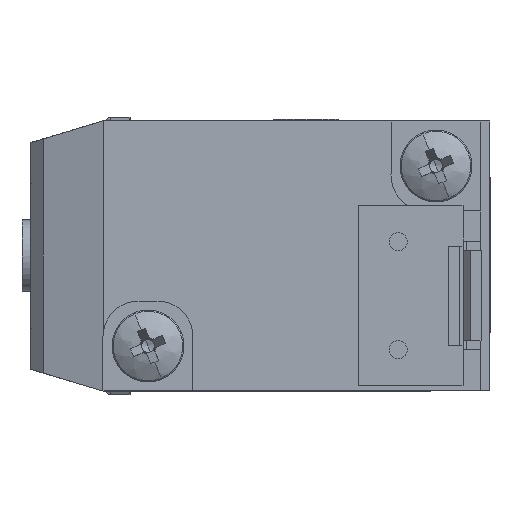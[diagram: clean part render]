
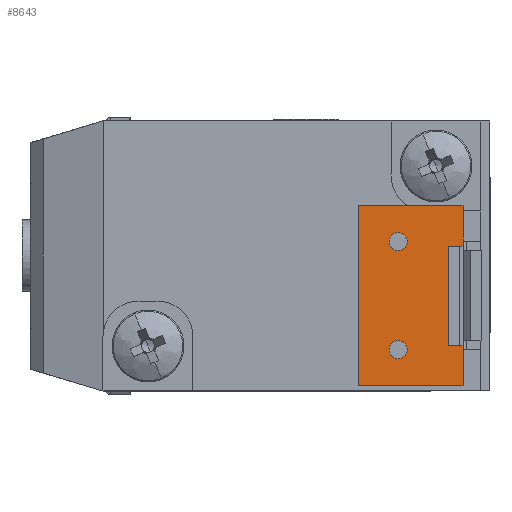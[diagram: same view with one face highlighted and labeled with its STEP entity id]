
A CAD part, left-side view. The second image highlights one B-rep face of the part: STEP entity #8643.
In plain terms, the highlighted planar face has unit normal (-1, 0, 0) as drawn and (0, 0, 1) by its records, which use the part's own axes.
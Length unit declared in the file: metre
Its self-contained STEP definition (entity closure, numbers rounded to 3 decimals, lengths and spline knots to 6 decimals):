
#9 = ORIENTED_EDGE ( 'NONE', *, *, #2410, .F. ) ;
#73 = FACE_OUTER_BOUND ( 'NONE', #8177, .T. ) ;
#579 = DIRECTION ( 'NONE',  ( 0., 0., -1. ) ) ;
#612 = EDGE_CURVE ( 'NONE', #3967, #6652, #1167, .T. ) ;
#651 = VECTOR ( 'NONE', #2501, 1. ) ;
#769 = LINE ( 'NONE', #6165, #9896 ) ;
#788 = VERTEX_POINT ( 'NONE', #8660 ) ;
#823 = EDGE_CURVE ( 'NONE', #10276, #6582, #6530, .T. ) ;
#1167 = LINE ( 'NONE', #6691, #5554 ) ;
#1422 = ORIENTED_EDGE ( 'NONE', *, *, #9804, .F. ) ;
#1997 = ORIENTED_EDGE ( 'NONE', *, *, #8852, .T. ) ;
#2053 = EDGE_CURVE ( 'NONE', #10599, #2829, #7494, .T. ) ;
#2174 = CARTESIAN_POINT ( 'NONE',  ( -0.00275, 0.004475, 0.006 ) ) ;
#2255 = CARTESIAN_POINT ( 'NONE',  ( 0., 0.004475, 0.006 ) ) ;
#2340 = CARTESIAN_POINT ( 'NONE',  ( 0.005, 0.004475, 0.006 ) ) ;
#2408 = DIRECTION ( 'NONE',  ( 1., 0., 0. ) ) ;
#2410 = EDGE_CURVE ( 'NONE', #7373, #3967, #6492, .T. ) ;
#2454 = FACE_BOUND ( 'NONE', #10490, .T. ) ;
#2469 = CARTESIAN_POINT ( 'NONE',  ( -0.005, 0.010275, 0.006 ) ) ;
#2501 = DIRECTION ( 'NONE',  ( -1., 0., 0. ) ) ;
#2789 = ORIENTED_EDGE ( 'NONE', *, *, #9151, .F. ) ;
#2829 = VERTEX_POINT ( 'NONE', #7262 ) ;
#3038 = CARTESIAN_POINT ( 'NONE',  ( 0., 0.005275, 0.006 ) ) ;
#3138 = VECTOR ( 'NONE', #3909, 1. ) ;
#3191 = DIRECTION ( 'NONE',  ( 0., 0., 1. ) ) ;
#3458 = DIRECTION ( 'NONE',  ( 0., -1., 0. ) ) ;
#3606 = CARTESIAN_POINT ( 'NONE',  ( -0.00275, 0.005275, 0.006 ) ) ;
#3653 = CARTESIAN_POINT ( 'NONE',  ( 0.00275, 0.004875, 0.006 ) ) ;
#3866 = ORIENTED_EDGE ( 'NONE', *, *, #823, .F. ) ;
#3909 = DIRECTION ( 'NONE',  ( -1., 0., 0. ) ) ;
#3967 = VERTEX_POINT ( 'NONE', #4329 ) ;
#4124 = VECTOR ( 'NONE', #8994, 1. ) ;
#4197 = LINE ( 'NONE', #9763, #8666 ) ;
#4329 = CARTESIAN_POINT ( 'NONE',  ( 0.005, 0.004475, 0.006 ) ) ;
#4477 = FACE_BOUND ( 'NONE', #10500, .T. ) ;
#4661 = CARTESIAN_POINT ( 'NONE',  ( -0.003, 0.008075, 0.006 ) ) ;
#4670 = DIRECTION ( 'NONE',  ( 0., 0., 1. ) ) ;
#4708 = DIRECTION ( 'NONE',  ( 0., -1., 0. ) ) ;
#4734 = ORIENTED_EDGE ( 'NONE', *, *, #6525, .F. ) ;
#4794 = DIRECTION ( 'NONE',  ( 0., 0., 1. ) ) ;
#5275 = ORIENTED_EDGE ( 'NONE', *, *, #10092, .F. ) ;
#5397 = CARTESIAN_POINT ( 'NONE',  ( 0.005, 0.010275, 0.006 ) ) ;
#5551 = EDGE_CURVE ( 'NONE', #10967, #788, #7444, .T. ) ;
#5554 = VECTOR ( 'NONE', #6564, 1. ) ;
#5639 = EDGE_CURVE ( 'NONE', #9523, #6652, #6589, .T. ) ;
#5685 = ORIENTED_EDGE ( 'NONE', *, *, #5639, .T. ) ;
#6032 = VECTOR ( 'NONE', #3458, 1. ) ;
#6165 = CARTESIAN_POINT ( 'NONE',  ( -0.00275, 0.004875, 0.006 ) ) ;
#6492 = LINE ( 'NONE', #8942, #4124 ) ;
#6525 = EDGE_CURVE ( 'NONE', #9369, #7373, #7418, .T. ) ;
#6530 = CIRCLE ( 'NONE', #9035, 0.0005 ) ;
#6564 = DIRECTION ( 'NONE',  ( -1., 0., 0. ) ) ;
#6582 = VERTEX_POINT ( 'NONE', #10368 ) ;
#6589 = LINE ( 'NONE', #3653, #6032 ) ;
#6652 = VERTEX_POINT ( 'NONE', #10473 ) ;
#6691 = CARTESIAN_POINT ( 'NONE',  ( 0., 0.004475, 0.006 ) ) ;
#6709 = CIRCLE ( 'NONE', #9670, 0.0005 ) ;
#6743 = DIRECTION ( 'NONE',  ( -1., 0., 0. ) ) ;
#6778 = CARTESIAN_POINT ( 'NONE',  ( 0., 0.010275, 0.006 ) ) ;
#6804 = VERTEX_POINT ( 'NONE', #3606 ) ;
#6997 = CIRCLE ( 'NONE', #8944, 0.0005 ) ;
#7050 = DIRECTION ( 'NONE',  ( 0., 1., 0. ) ) ;
#7262 = CARTESIAN_POINT ( 'NONE',  ( -0.003, 0.008575, 0.006 ) ) ;
#7373 = VERTEX_POINT ( 'NONE', #5397 ) ;
#7418 = LINE ( 'NONE', #6778, #9754 ) ;
#7444 = LINE ( 'NONE', #2255, #651 ) ;
#7494 = CIRCLE ( 'NONE', #10483, 0.0005 ) ;
#7638 = ORIENTED_EDGE ( 'NONE', *, *, #2053, .F. ) ;
#7982 = CARTESIAN_POINT ( 'NONE',  ( 0.00275, 0.005275, 0.006 ) ) ;
#8177 = EDGE_LOOP ( 'NONE', ( #1997, #2789, #5685, #10939, #9, #4734, #5275, #8240 ) ) ;
#8240 = ORIENTED_EDGE ( 'NONE', *, *, #5551, .F. ) ;
#8508 = CARTESIAN_POINT ( 'NONE',  ( 0.003, 0.008075, 0.006 ) ) ;
#8643 = ADVANCED_FACE ( 'NONE', ( #4477, #2454, #73 ), #11143, .F. ) ;
#8660 = CARTESIAN_POINT ( 'NONE',  ( -0.005, 0.004475, 0.006 ) ) ;
#8666 = VECTOR ( 'NONE', #10630, 1. ) ;
#8852 = EDGE_CURVE ( 'NONE', #10967, #6804, #769, .T. ) ;
#8942 = CARTESIAN_POINT ( 'NONE',  ( 0.005, 0.007375, 0.006 ) ) ;
#8944 = AXIS2_PLACEMENT_3D ( 'NONE', #8508, #3191, #9393 ) ;
#8994 = DIRECTION ( 'NONE',  ( 0., -1., 0. ) ) ;
#9035 = AXIS2_PLACEMENT_3D ( 'NONE', #9107, #9144, #9185 ) ;
#9107 = CARTESIAN_POINT ( 'NONE',  ( 0.003, 0.008075, 0.006 ) ) ;
#9144 = DIRECTION ( 'NONE',  ( 0., 0., 1. ) ) ;
#9151 = EDGE_CURVE ( 'NONE', #9523, #6804, #10187, .T. ) ;
#9178 = ORIENTED_EDGE ( 'NONE', *, *, #9233, .F. ) ;
#9185 = DIRECTION ( 'NONE',  ( 0., -1., 0. ) ) ;
#9233 = EDGE_CURVE ( 'NONE', #6582, #10276, #6997, .T. ) ;
#9369 = VERTEX_POINT ( 'NONE', #2469 ) ;
#9384 = AXIS2_PLACEMENT_3D ( 'NONE', #2340, #579, #6743 ) ;
#9393 = DIRECTION ( 'NONE',  ( 0., -1., 0. ) ) ;
#9523 = VERTEX_POINT ( 'NONE', #7982 ) ;
#9670 = AXIS2_PLACEMENT_3D ( 'NONE', #10100, #4794, #10966 ) ;
#9754 = VECTOR ( 'NONE', #2408, 1. ) ;
#9763 = CARTESIAN_POINT ( 'NONE',  ( -0.005, 0.007375, 0.006 ) ) ;
#9804 = EDGE_CURVE ( 'NONE', #2829, #10599, #6709, .T. ) ;
#9896 = VECTOR ( 'NONE', #7050, 1. ) ;
#10092 = EDGE_CURVE ( 'NONE', #788, #9369, #4197, .T. ) ;
#10100 = CARTESIAN_POINT ( 'NONE',  ( -0.003, 0.008075, 0.006 ) ) ;
#10187 = LINE ( 'NONE', #3038, #3138 ) ;
#10276 = VERTEX_POINT ( 'NONE', #10857 ) ;
#10368 = CARTESIAN_POINT ( 'NONE',  ( 0.003, 0.008575, 0.006 ) ) ;
#10473 = CARTESIAN_POINT ( 'NONE',  ( 0.00275, 0.004475, 0.006 ) ) ;
#10483 = AXIS2_PLACEMENT_3D ( 'NONE', #4661, #4670, #4708 ) ;
#10490 = EDGE_LOOP ( 'NONE', ( #7638, #1422 ) ) ;
#10500 = EDGE_LOOP ( 'NONE', ( #3866, #9178 ) ) ;
#10599 = VERTEX_POINT ( 'NONE', #11316 ) ;
#10630 = DIRECTION ( 'NONE',  ( 0., 1., 0. ) ) ;
#10857 = CARTESIAN_POINT ( 'NONE',  ( 0.003, 0.007575, 0.006 ) ) ;
#10939 = ORIENTED_EDGE ( 'NONE', *, *, #612, .F. ) ;
#10966 = DIRECTION ( 'NONE',  ( 0., -1., 0. ) ) ;
#10967 = VERTEX_POINT ( 'NONE', #2174 ) ;
#11143 = PLANE ( 'NONE',  #9384 ) ;
#11316 = CARTESIAN_POINT ( 'NONE',  ( -0.003, 0.007575, 0.006 ) ) ;
